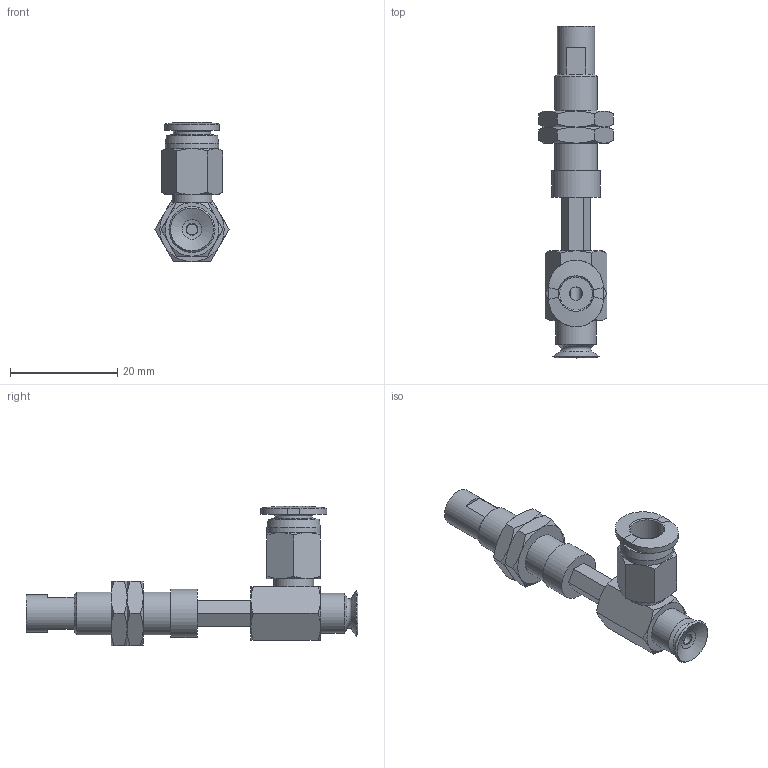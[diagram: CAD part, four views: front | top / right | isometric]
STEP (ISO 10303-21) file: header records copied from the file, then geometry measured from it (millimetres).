
FILE_DESCRIPTION(('STEP AP203'),'1');
FILE_NAME('-O.stp','2025-04-10T03:14:57',(' '),(' '),'Spatial InterOp 3D',' ',' ');
FILE_SCHEMA(('CONFIG_CONTROL_DESIGN'));
Length unit declared in the file: millimetre
Products named in the file (7): BNABPFYH-8A-10-※-O; CONNECTOR-H-8A-10; Nut-8A-10-h; NAPFTH-8A-10-FBODY; NAPFTH-8A-10-MBODY; BPFG-8A-※; PC-C_06-M5
Assembly tree (7 placements, depth 2):
  BNABPFYH-8A-10-※-O
    CONNECTOR-H-8A-10
    Nut-8A-10-h  x2
    NAPFTH-8A-10-FBODY
    NAPFTH-8A-10-MBODY
    BPFG-8A-※
    PC-C_06-M5
Bounding box: 13.86 x 62 x 25.98 mm (x, y, z)
Volume: 3388.6 mm3; surface area: 5237.1 mm2
Topology: 6 solids, 9 shells, 190 faces, 404 edges, 245 vertices
Faces by surface type: plane 79, cone 67, cylinder 24, torus 12, bspline 5, revolution 3
Full cylindrical faces by diameter (mm): 2 x2, 4 x4, 4.134 x2, 5 x2, 6 x2, 7 x2, 7.188 x2, 7.4 x1, 7.5 x1, 8 x1, 8.2 x1, 9 x1, 10 x1
Entity records: 4979 total; most frequent: CARTESIAN_POINT 1401, DIRECTION 663, ORIENTED_EDGE 586, EDGE_CURVE 295, AXIS2_PLACEMENT_3D 283, EDGE_LOOP 244, VERTEX_POINT 207, FACE_OUTER_BOUND 141
